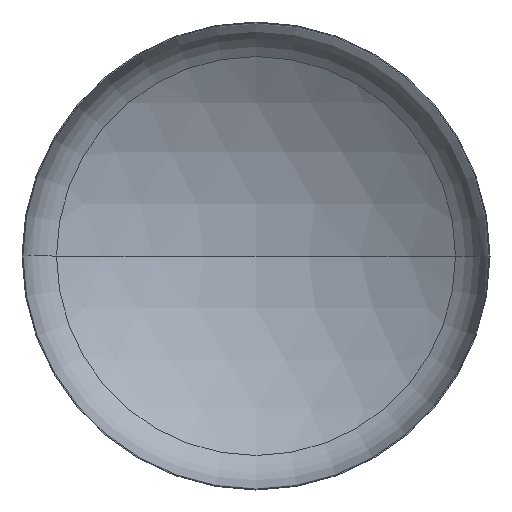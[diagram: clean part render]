
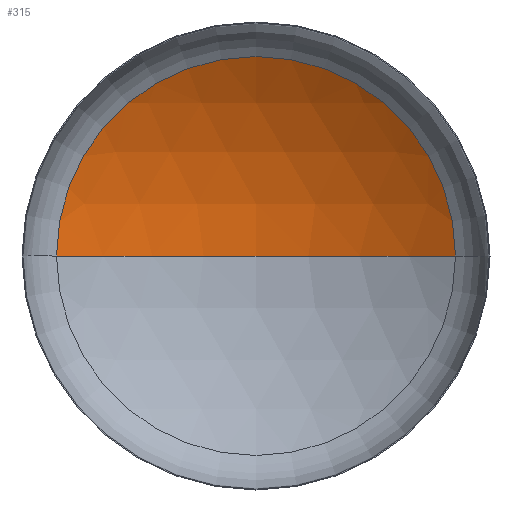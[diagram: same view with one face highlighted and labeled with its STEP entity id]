
A CAD part, front view. The second image highlights one B-rep face of the part: STEP entity #315.
In plain terms, the highlighted spherical face has radius 3040 mm.
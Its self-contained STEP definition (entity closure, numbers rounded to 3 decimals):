
#3 = ORIENTED_EDGE ( 'NONE', *, *, #88, .T. ) ;
#4 = CARTESIAN_POINT ( 'NONE',  ( 0., -2052.537, 0. ) ) ;
#6 = CARTESIAN_POINT ( 'NONE',  ( 0., -2052.537, 0. ) ) ;
#10 = AXIS2_PLACEMENT_3D ( 'NONE', #93, #336, #194 ) ;
#16 = CIRCLE ( 'NONE', #37, 3040. ) ;
#17 = CARTESIAN_POINT ( 'NONE',  ( -1619.682, 520.055, 0. ) ) ;
#22 = EDGE_LOOP ( 'NONE', ( #153, #3, #144 ) ) ;
#35 = VERTEX_POINT ( 'NONE', #367 ) ;
#37 = AXIS2_PLACEMENT_3D ( 'NONE', #6, #183, #103 ) ;
#39 = AXIS2_PLACEMENT_3D ( 'NONE', #4, #119, #281 ) ;
#40 = AXIS2_PLACEMENT_3D ( 'NONE', #201, #202, #140 ) ;
#42 = CIRCLE ( 'NONE', #40, 1619.682 ) ;
#87 = EDGE_CURVE ( 'NONE', #35, #257, #42, .T. ) ;
#88 = EDGE_CURVE ( 'NONE', #208, #35, #250, .T. ) ;
#90 = EDGE_CURVE ( 'NONE', #208, #257, #16, .T. ) ;
#93 = CARTESIAN_POINT ( 'NONE',  ( 0., -2052.537, 0. ) ) ;
#103 = DIRECTION ( 'NONE',  ( 1., 0., 0. ) ) ;
#119 = DIRECTION ( 'NONE',  ( 0., 0., -1. ) ) ;
#127 = SPHERICAL_SURFACE ( 'NONE', #10, 3040. ) ;
#140 = DIRECTION ( 'NONE',  ( 1., 0., 0. ) ) ;
#144 = ORIENTED_EDGE ( 'NONE', *, *, #87, .T. ) ;
#153 = ORIENTED_EDGE ( 'NONE', *, *, #90, .F. ) ;
#183 = DIRECTION ( 'NONE',  ( 0., 0., 1. ) ) ;
#194 = DIRECTION ( 'NONE',  ( -1., 0., 0. ) ) ;
#201 = CARTESIAN_POINT ( 'NONE',  ( 0., 520.055, 0. ) ) ;
#202 = DIRECTION ( 'NONE',  ( 0., -1., 0. ) ) ;
#208 = VERTEX_POINT ( 'NONE', #243 ) ;
#243 = CARTESIAN_POINT ( 'NONE',  ( 0., 987.463, 0. ) ) ;
#250 = CIRCLE ( 'NONE', #39, 3040. ) ;
#257 = VERTEX_POINT ( 'NONE', #17 ) ;
#281 = DIRECTION ( 'NONE',  ( -1., 0., 0. ) ) ;
#315 = ADVANCED_FACE ( 'NONE', ( #394 ), #127, .F. ) ;
#336 = DIRECTION ( 'NONE',  ( 0., 0., -1. ) ) ;
#367 = CARTESIAN_POINT ( 'NONE',  ( 1619.682, 520.055, 0. ) ) ;
#394 = FACE_OUTER_BOUND ( 'NONE', #22, .T. ) ;
